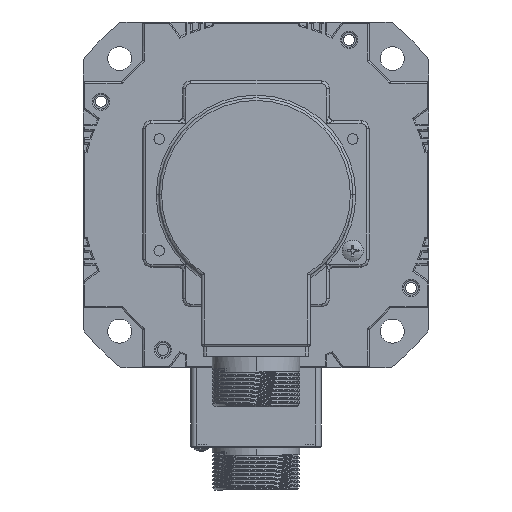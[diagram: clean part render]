
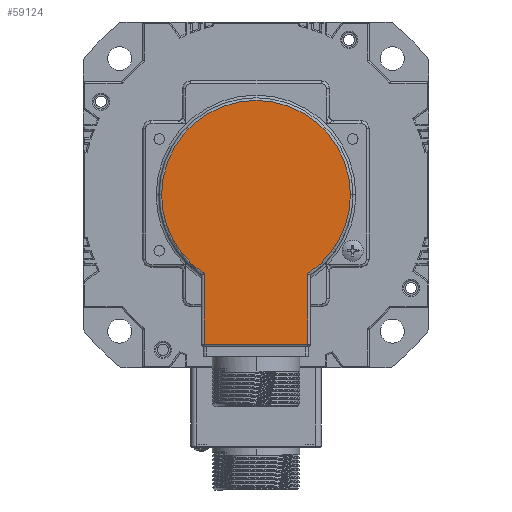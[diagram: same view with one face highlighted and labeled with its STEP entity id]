
A CAD part, front view. The second image highlights one B-rep face of the part: STEP entity #59124.
In plain terms, the highlighted planar face has unit normal (0, -1, 0) as drawn and (0, 0, -1) by its records, which use the part's own axes.
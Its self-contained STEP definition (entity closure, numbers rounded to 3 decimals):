
#1069 = VERTEX_POINT ( 'NONE', #14436 ) ;
#1225 = CARTESIAN_POINT ( 'NONE',  ( 0., 0., -33. ) ) ;
#1420 = DIRECTION ( 'NONE',  ( 0., -1., 0. ) ) ;
#2225 = LINE ( 'NONE', #21756, #9744 ) ;
#3817 = PLANE ( 'NONE',  #11551 ) ;
#4869 = ORIENTED_EDGE ( 'NONE', *, *, #52291, .T. ) ;
#7903 = CARTESIAN_POINT ( 'NONE',  ( 19.5, 29.665, -33. ) ) ;
#8483 = CIRCLE ( 'NONE', #46234, 35.5 ) ;
#9720 = DIRECTION ( 'NONE',  ( -1., 0., 0. ) ) ;
#9744 = VECTOR ( 'NONE', #1420, 1000. ) ;
#11043 = DIRECTION ( 'NONE',  ( -1., 0., 0. ) ) ;
#11551 = AXIS2_PLACEMENT_3D ( 'NONE', #15211, #41643, #63168 ) ;
#11977 = DIRECTION ( 'NONE',  ( -1., 0., 0. ) ) ;
#14436 = CARTESIAN_POINT ( 'NONE',  ( -35.5, 0., -33. ) ) ;
#14764 = LINE ( 'NONE', #57286, #27310 ) ;
#14833 = CARTESIAN_POINT ( 'NONE',  ( 0., 0., -33. ) ) ;
#15211 = CARTESIAN_POINT ( 'NONE',  ( 0., 0., -33. ) ) ;
#18793 = EDGE_CURVE ( 'NONE', #46510, #1069, #8483, .T. ) ;
#19472 = FACE_OUTER_BOUND ( 'NONE', #41812, .T. ) ;
#19607 = EDGE_CURVE ( 'NONE', #34167, #46510, #26782, .T. ) ;
#21391 = CARTESIAN_POINT ( 'NONE',  ( -19.5, 56.15, -33. ) ) ;
#21756 = CARTESIAN_POINT ( 'NONE',  ( 19.5, 30.199, -33. ) ) ;
#22706 = ORIENTED_EDGE ( 'NONE', *, *, #31947, .T. ) ;
#25201 = CARTESIAN_POINT ( 'NONE',  ( 19.5, 56.15, -33. ) ) ;
#26020 = EDGE_CURVE ( 'NONE', #38665, #31358, #49581, .T. ) ;
#26782 = CIRCLE ( 'NONE', #66399, 35.5 ) ;
#27310 = VECTOR ( 'NONE', #62680, 1000. ) ;
#27871 = VECTOR ( 'NONE', #60913, 1000. ) ;
#31358 = VERTEX_POINT ( 'NONE', #21391 ) ;
#31947 = EDGE_CURVE ( 'NONE', #44202, #34167, #2225, .T. ) ;
#32082 = CARTESIAN_POINT ( 'NONE',  ( 0., 0., -33. ) ) ;
#33154 = AXIS2_PLACEMENT_3D ( 'NONE', #14833, #46876, #9720 ) ;
#34167 = VERTEX_POINT ( 'NONE', #7903 ) ;
#38665 = VERTEX_POINT ( 'NONE', #53808 ) ;
#38712 = ORIENTED_EDGE ( 'NONE', *, *, #26020, .T. ) ;
#41643 = DIRECTION ( 'NONE',  ( 0., 0., -1. ) ) ;
#41812 = EDGE_LOOP ( 'NONE', ( #38712, #4869, #22706, #43918, #68499, #47023 ) ) ;
#43034 = DIRECTION ( 'NONE',  ( 0., 0., -1. ) ) ;
#43918 = ORIENTED_EDGE ( 'NONE', *, *, #19607, .T. ) ;
#43950 = DIRECTION ( 'NONE',  ( 0., 0., -1. ) ) ;
#44202 = VERTEX_POINT ( 'NONE', #25201 ) ;
#45247 = CARTESIAN_POINT ( 'NONE',  ( -19.5, 57.15, -33. ) ) ;
#46234 = AXIS2_PLACEMENT_3D ( 'NONE', #32082, #43034, #11043 ) ;
#46506 = CARTESIAN_POINT ( 'NONE',  ( 35.5, 0., -33. ) ) ;
#46510 = VERTEX_POINT ( 'NONE', #46506 ) ;
#46876 = DIRECTION ( 'NONE',  ( 0., 0., -1. ) ) ;
#47023 = ORIENTED_EDGE ( 'NONE', *, *, #60850, .T. ) ;
#49581 = LINE ( 'NONE', #45247, #27871 ) ;
#52291 = EDGE_CURVE ( 'NONE', #31358, #44202, #14764, .T. ) ;
#53808 = CARTESIAN_POINT ( 'NONE',  ( -19.5, 29.665, -33. ) ) ;
#57286 = CARTESIAN_POINT ( 'NONE',  ( 20.5, 56.15, -33. ) ) ;
#59124 = ADVANCED_FACE ( 'NONE', ( #19472 ), #3817, .T. ) ;
#60850 = EDGE_CURVE ( 'NONE', #1069, #38665, #64400, .T. ) ;
#60913 = DIRECTION ( 'NONE',  ( 0., 1., 0. ) ) ;
#62680 = DIRECTION ( 'NONE',  ( 1., 0., 0. ) ) ;
#63168 = DIRECTION ( 'NONE',  ( -1., 0., 0. ) ) ;
#64400 = CIRCLE ( 'NONE', #33154, 35.5 ) ;
#66399 = AXIS2_PLACEMENT_3D ( 'NONE', #1225, #43950, #11977 ) ;
#68499 = ORIENTED_EDGE ( 'NONE', *, *, #18793, .T. ) ;
